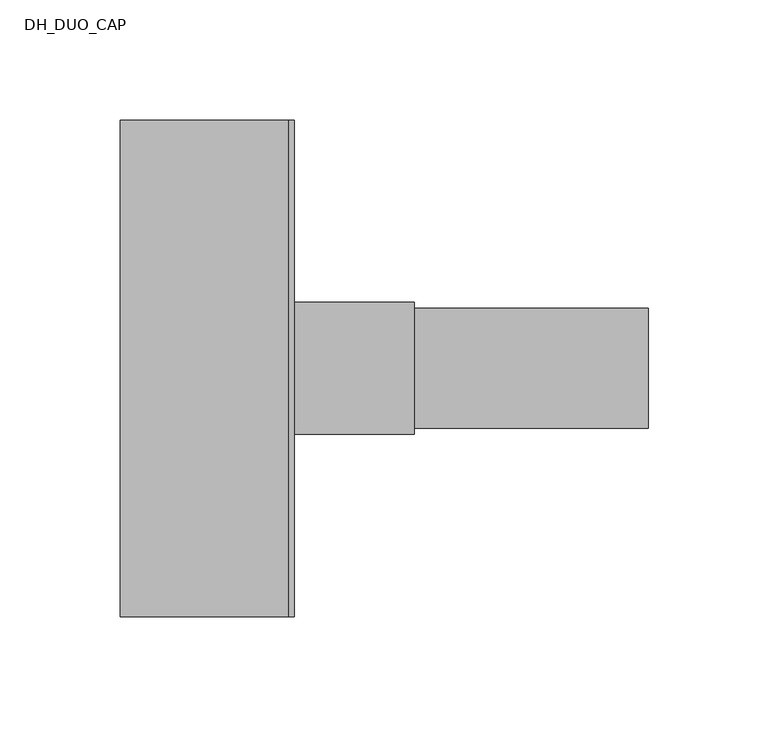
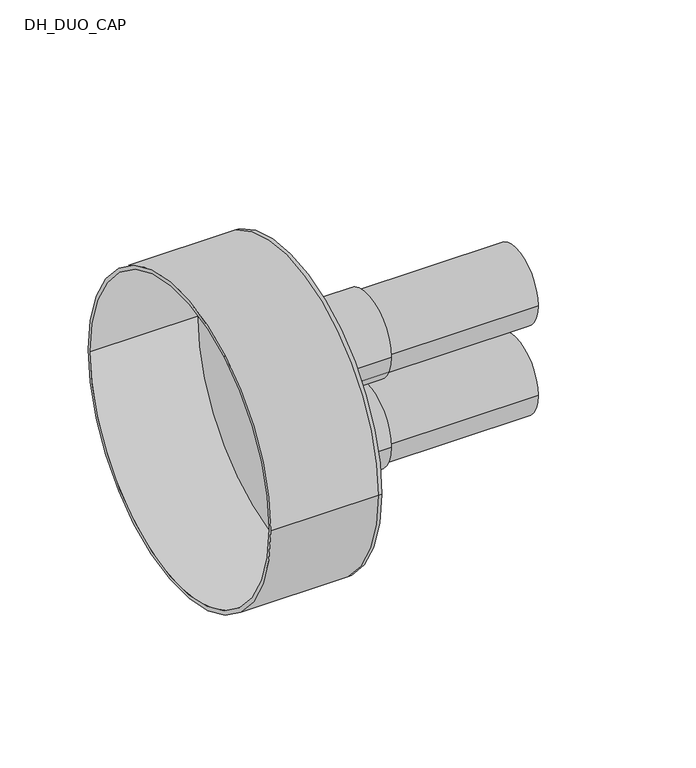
"""IFC4 building model written with IfcOpenShell, lengths in millimetres: pipe fitting geometry, DH_DUO_CAP : RAUTHERMEX DUO ++ 7.4 Heating - Rubber Cap."""

from ifc_helpers import new_model, si_unit, point, frame, frame_2d, origin, place, context, project, spatial, polyline, circle_curve, trimmed, segment, composite_curve, outline, extrude, source, transform, mapped, element, save
from ifc_brep_helpers import plane_surface, cylinder_surface, revolved_surface, advanced_brep


def dh_duo_cap_34ed25f1(model_context):
    return source(origin(), model_context, "Body", "SolidModel", [
        extrude(outline(composite_curve([segment(trimmed(circle_curve(frame_2d((0.0, -31.0)), 25.0), [point((-25.0, -31.0))], [point((25.0, -31.0))], False, "CARTESIAN"), True, "CONTINUOUS"), segment(trimmed(circle_curve(frame_2d((0.0, -31.0)), 25.0), [point((25.0, -31.0))], [point((-25.0, -31.0))], False, "CARTESIAN"), True, "CONTINUOUS")], self_intersect=False), holes=[composite_curve([segment(trimmed(circle_curve(frame_2d((0.0, -31.0)), 18.1), [point((-18.1, -31.0))], [point((18.1, -31.0))], True, "CARTESIAN"), True, "CONTINUOUS"), segment(trimmed(circle_curve(frame_2d((0.0, -31.0)), 18.1), [point((18.1, -31.0))], [point((-18.1, -31.0))], True, "CARTESIAN"), True, "CONTINUOUS")], self_intersect=False)]), frame((0.0, 0.0, 0.0), z_axis=(1.0, 0.0, 0.0), x_axis=(0.0, 1.0, 0.0)), (0.0, 0.0, 1.0), 150.0),
        extrude(outline(composite_curve([segment(trimmed(circle_curve(frame_2d((0.0, 31.0)), 25.0), [point((-25.0, 31.0))], [point((25.0, 31.0))], False, "CARTESIAN"), True, "CONTINUOUS"), segment(trimmed(circle_curve(frame_2d((0.0, 31.0)), 25.0), [point((25.0, 31.0))], [point((-25.0, 31.0))], False, "CARTESIAN"), True, "CONTINUOUS")], self_intersect=False), holes=[composite_curve([segment(trimmed(circle_curve(frame_2d((0.0, 31.0)), 18.1), [point((-18.1, 31.0))], [point((18.1, 31.0))], True, "CARTESIAN"), True, "CONTINUOUS"), segment(trimmed(circle_curve(frame_2d((0.0, 31.0)), 18.1), [point((18.1, 31.0))], [point((-18.1, 31.0))], True, "CARTESIAN"), True, "CONTINUOUS")], self_intersect=False)]), frame((0.0, 0.0, 0.0), z_axis=(1.0, 0.0, 0.0), x_axis=(0.0, 1.0, 0.0)), (0.0, 0.0, 1.0), 150.0),
        advanced_brep(
        [(-70.0, -103.5, 0.0), (-70.0, 103.5, 0.0), (-70.0, -101.0, 0.0), (-70.0, 101.0, 0.0), (0.0, -101.0, 0.0), (0.0, 101.0, 0.0), (0.0, -103.5, 0.0), (0.0, 103.5, 0.0), (0.0, 25.0, 31.0), (0.0, -25.0, 31.0), (0.0, 25.0, -31.0), (0.0, -25.0, -31.0), (2.5, -103.5, 0.0), (2.5, 103.5, 0.0), (2.5, -25.0, 31.0), (2.5, 25.0, 31.0), (2.5, -25.0, -31.0), (2.5, 25.0, -31.0)],
        [
            (0, 1, circle_curve(frame((-70.0, 0.0, 0.0), z_axis=(-1.0, 0.0, 0.0), x_axis=(0.0, 1.0, 0.0)), 103.5)),
            (1, 0, circle_curve(frame((-70.0, 0.0, 0.0), z_axis=(-1.0, 0.0, 0.0), x_axis=(0.0, 1.0, 0.0)), 103.5)),
            (2, 3, circle_curve(frame((-70.0, 0.0, 0.0), z_axis=(1.0, 0.0, 0.0), x_axis=(0.0, 1.0, 0.0)), 101.0)),
            (3, 2, circle_curve(frame((-70.0, 0.0, 0.0), z_axis=(1.0, 0.0, 0.0), x_axis=(0.0, 1.0, 0.0)), 101.0)),
            (2, 4),
            (4, 5, circle_curve(frame((0.0, 0.0, 0.0), z_axis=(1.0, 0.0, 0.0), x_axis=(0.0, 1.0, 0.0)), 101.0)),
            (5, 3),
            (5, 4, circle_curve(frame((0.0, 0.0, 0.0), z_axis=(1.0, 0.0, 0.0), x_axis=(0.0, 1.0, 0.0)), 101.0)),
            (0, 6),
            (6, 7, circle_curve(frame((0.0, 0.0, 0.0), z_axis=(-1.0, 0.0, 0.0), x_axis=(0.0, 1.0, 0.0)), 103.5)),
            (7, 1),
            (7, 6, circle_curve(frame((0.0, 0.0, 0.0), z_axis=(-1.0, 0.0, 0.0), x_axis=(0.0, 1.0, 0.0)), 103.5)),
            (8, 9, circle_curve(frame((0.0, 0.0, 31.0), z_axis=(1.0, 0.0, 0.0), x_axis=(0.0, 1.0, 0.0)), 25.0)),
            (9, 8, circle_curve(frame((0.0, 0.0, 31.0), z_axis=(1.0, 0.0, 0.0), x_axis=(0.0, 1.0, 0.0)), 25.0)),
            (10, 11, circle_curve(frame((0.0, 0.0, -31.0), z_axis=(1.0, 0.0, 0.0), x_axis=(0.0, 1.0, 0.0)), 25.0)),
            (11, 10, circle_curve(frame((0.0, 0.0, -31.0), z_axis=(1.0, 0.0, 0.0), x_axis=(0.0, 1.0, 0.0)), 25.0)),
            (12, 13, circle_curve(frame((2.5, 0.0, 0.0), z_axis=(1.0, 0.0, 0.0), x_axis=(0.0, 1.0, 0.0)), 103.5)),
            (13, 12, circle_curve(frame((2.5, 0.0, 0.0), z_axis=(1.0, 0.0, 0.0), x_axis=(0.0, 1.0, 0.0)), 103.5)),
            (14, 15, circle_curve(frame((2.5, 0.0, 31.0), z_axis=(-1.0, 0.0, 0.0), x_axis=(0.0, 1.0, 0.0)), 25.0)),
            (15, 14, circle_curve(frame((2.5, 0.0, 31.0), z_axis=(-1.0, 0.0, 0.0), x_axis=(0.0, 1.0, 0.0)), 25.0)),
            (16, 17, circle_curve(frame((2.5, 0.0, -31.0), z_axis=(-1.0, 0.0, 0.0), x_axis=(0.0, 1.0, 0.0)), 25.0)),
            (17, 16, circle_curve(frame((2.5, 0.0, -31.0), z_axis=(-1.0, 0.0, 0.0), x_axis=(0.0, 1.0, 0.0)), 25.0)),
            (13, 7),
            (6, 12),
            (8, 15),
            (14, 9),
            (10, 17),
            (16, 11),
        ],
        [
            plane_surface(frame((-70.0, 0.0, 0.0), z_axis=(-1.0, 0.0, 0.0), x_axis=(0.0, 0.0, 1.0))),
            revolved_surface(polyline([(0.0, 101.0, 0.0), (-70.0, 101.0, 0.0)]), (-70.0, 0.0, 0.0), (1.0, 0.0, 0.0)),
            cylinder_surface(frame((-70.0, 0.0, 0.0), z_axis=(-1.0, 0.0, 0.0), x_axis=(0.0, 1.0, 0.0)), 103.5),
            plane_surface(frame((0.0, 0.0, 0.0), z_axis=(-1.0, 0.0, 0.0), x_axis=(0.0, 0.0, 1.0))),
            plane_surface(frame((2.5, 0.0, 0.0), z_axis=(1.0, 0.0, 0.0), x_axis=(0.0, 0.0, 1.0))),
            cylinder_surface(frame((0.0, 0.0, 0.0), z_axis=(-1.0, 0.0, 0.0), x_axis=(0.0, 1.0, 0.0)), 103.5),
            revolved_surface(polyline([(0.0, 25.0, 31.0), (2.5, 25.0, 31.0)]), (0.0, 0.0, 31.0), (-1.0, 0.0, 0.0)),
            revolved_surface(polyline([(0.0, 25.0, -31.0), (2.5, 25.0, -31.0)]), (0.0, 0.0, -31.0), (-1.0, 0.0, 0.0)),
        ],
        [
            (0, [[1, 2], [3, 4]]),
            (1, [[-3, 5, 6, 7]]),
            (1, [[-4, -7, 8, -5]]),
            (2, [[-1, 9, 10, 11]]),
            (2, [[-2, -11, 12, -9]]),
            (3, [[-6, -8], [13, 14], [15, 16]]),
            (4, [[17, 18], [19, 20], [21, 22]]),
            (5, [[-18, 23, -10, 24]]),
            (5, [[-17, -24, -12, -23]]),
            (6, [[25, -19, 26, -13]]),
            (6, [[-25, -14, -26, -20]]),
            (7, [[27, -21, 28, -15]]),
            (7, [[-27, -16, -28, -22]]),
        ],
    ),
        extrude(outline(composite_curve([segment(trimmed(circle_curve(frame_2d((0.0, -31.0)), 27.5), [point((-27.5, -31.0))], [point((27.5, -31.0))], False, "CARTESIAN"), True, "CONTINUOUS"), segment(trimmed(circle_curve(frame_2d((0.0, -31.0)), 27.5), [point((27.5, -31.0))], [point((-27.5, -31.0))], False, "CARTESIAN"), True, "CONTINUOUS")], self_intersect=False), holes=[composite_curve([segment(trimmed(circle_curve(frame_2d((0.0, -31.0)), 25.0), [point((-25.0, -31.0))], [point((25.0, -31.0))], True, "CARTESIAN"), True, "CONTINUOUS"), segment(trimmed(circle_curve(frame_2d((0.0, -31.0)), 25.0), [point((25.0, -31.0))], [point((-25.0, -31.0))], True, "CARTESIAN"), True, "CONTINUOUS")], self_intersect=False)]), frame((2.5, 0.0, 0.0), z_axis=(1.0, 0.0, 0.0), x_axis=(0.0, 1.0, 0.0)), (0.0, 0.0, 1.0), 50.0),
        extrude(outline(composite_curve([segment(trimmed(circle_curve(frame_2d((0.0, 31.0)), 27.5), [point((-27.5, 31.0))], [point((27.5, 31.0))], False, "CARTESIAN"), True, "CONTINUOUS"), segment(trimmed(circle_curve(frame_2d((0.0, 31.0)), 27.5), [point((27.5, 31.0))], [point((-27.5, 31.0))], False, "CARTESIAN"), True, "CONTINUOUS")], self_intersect=False), holes=[composite_curve([segment(trimmed(circle_curve(frame_2d((0.0, 31.0)), 25.0), [point((-25.0, 31.0))], [point((25.0, 31.0))], True, "CARTESIAN"), True, "CONTINUOUS"), segment(trimmed(circle_curve(frame_2d((0.0, 31.0)), 25.0), [point((25.0, 31.0))], [point((-25.0, 31.0))], True, "CARTESIAN"), True, "CONTINUOUS")], self_intersect=False)]), frame((2.5, 0.0, 0.0), z_axis=(1.0, 0.0, 0.0), x_axis=(0.0, 1.0, 0.0)), (0.0, 0.0, 1.0), 50.0),
    ])


if __name__ == "__main__":
    model = new_model("IFC4")
    model_context = context("Model", 3, world=origin())
    ifc_project = project(units=[si_unit("LENGTHUNIT", "METRE", prefix="MILLI")], contexts=[model_context])
    site = spatial("IfcSite", under=ifc_project)
    building = spatial("IfcBuilding", under=site)
    placement = place(None, origin())
    dh_duo_cap_shape = dh_duo_cap_34ed25f1(model_context)
    element("IfcPipeFitting", 1, ObjectType="DH_DUO_CAP : RAUTHERMEX DUO ++ 7.4 Heating - Rubber Cap", at=placement, inside=building, context=model_context, shape_type="MappedRepresentation", body=[
        mapped(dh_duo_cap_shape, transform((0.0, 0.0, 0.0), x_axis=(1.0, 0.0, 0.0), y_axis=(0.0, 1.0, 0.0), z_axis=(0.0, 0.0, 1.0))),
    ])
    save(model, "model.ifc")
